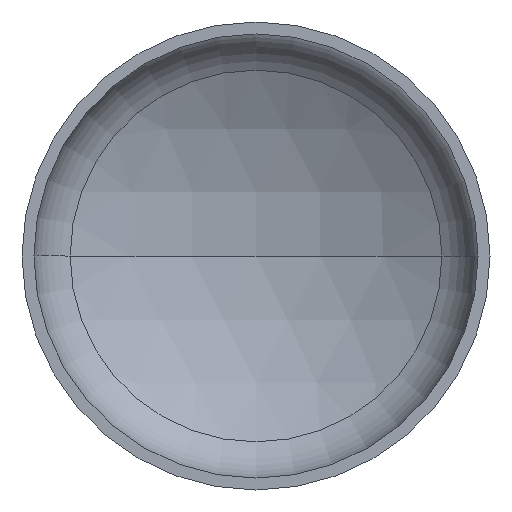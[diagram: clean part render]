
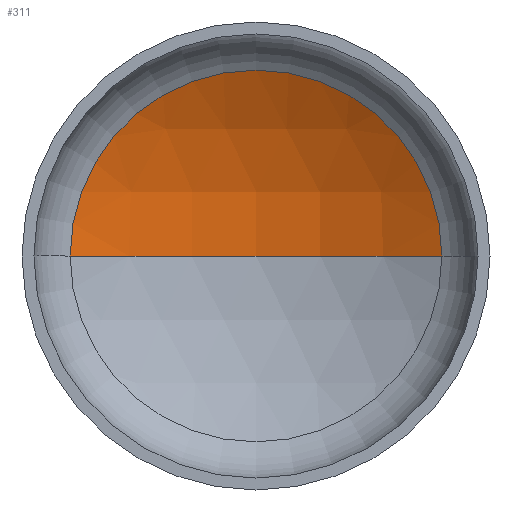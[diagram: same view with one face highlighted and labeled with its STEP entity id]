
A CAD part, front view. The second image highlights one B-rep face of the part: STEP entity #311.
In plain terms, the highlighted spherical face has radius 3200 mm.
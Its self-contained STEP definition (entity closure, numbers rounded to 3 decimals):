
#2 = AXIS2_PLACEMENT_3D ( 'NONE', #173, #143, #247 ) ;
#3 = AXIS2_PLACEMENT_3D ( 'NONE', #410, #203, #362 ) ;
#11 = AXIS2_PLACEMENT_3D ( 'NONE', #411, #139, #153 ) ;
#12 = AXIS2_PLACEMENT_3D ( 'NONE', #335, #175, #244 ) ;
#29 = VERTEX_POINT ( 'NONE', #238 ) ;
#89 = VERTEX_POINT ( 'NONE', #287 ) ;
#107 = ORIENTED_EDGE ( 'NONE', *, *, #341, .F. ) ;
#110 = ORIENTED_EDGE ( 'NONE', *, *, #348, .T. ) ;
#135 = EDGE_LOOP ( 'NONE', ( #107, #148, #110 ) ) ;
#139 = DIRECTION ( 'NONE',  ( 0., 0., 1. ) ) ;
#143 = DIRECTION ( 'NONE',  ( 0., 0., -1. ) ) ;
#148 = ORIENTED_EDGE ( 'NONE', *, *, #350, .T. ) ;
#153 = DIRECTION ( 'NONE',  ( 1., 0., 0. ) ) ;
#161 = VERTEX_POINT ( 'NONE', #271 ) ;
#173 = CARTESIAN_POINT ( 'NONE',  ( 0., -2169.134, 0. ) ) ;
#175 = DIRECTION ( 'NONE',  ( 0., 0., -1. ) ) ;
#203 = DIRECTION ( 'NONE',  ( 0., -1., 0. ) ) ;
#207 = CIRCLE ( 'NONE', #2, 3200. ) ;
#212 = FACE_OUTER_BOUND ( 'NONE', #135, .T. ) ;
#238 = CARTESIAN_POINT ( 'NONE',  ( 1588.24, 608.904, 0. ) ) ;
#244 = DIRECTION ( 'NONE',  ( -1., 0., 0. ) ) ;
#247 = DIRECTION ( 'NONE',  ( -1., 0., 0. ) ) ;
#260 = CIRCLE ( 'NONE', #3, 1588.24 ) ;
#271 = CARTESIAN_POINT ( 'NONE',  ( 0., 1030.866, 0. ) ) ;
#287 = CARTESIAN_POINT ( 'NONE',  ( -1588.24, 608.904, 0. ) ) ;
#311 = ADVANCED_FACE ( 'NONE', ( #212 ), #342, .F. ) ;
#324 = CIRCLE ( 'NONE', #11, 3200. ) ;
#335 = CARTESIAN_POINT ( 'NONE',  ( 0., -2169.134, 0. ) ) ;
#341 = EDGE_CURVE ( 'NONE', #161, #89, #324, .T. ) ;
#342 = SPHERICAL_SURFACE ( 'NONE', #12, 3200. ) ;
#348 = EDGE_CURVE ( 'NONE', #29, #89, #260, .T. ) ;
#350 = EDGE_CURVE ( 'NONE', #161, #29, #207, .T. ) ;
#362 = DIRECTION ( 'NONE',  ( 1., 0., 0. ) ) ;
#410 = CARTESIAN_POINT ( 'NONE',  ( 0., 608.904, 0. ) ) ;
#411 = CARTESIAN_POINT ( 'NONE',  ( 0., -2169.134, 0. ) ) ;
